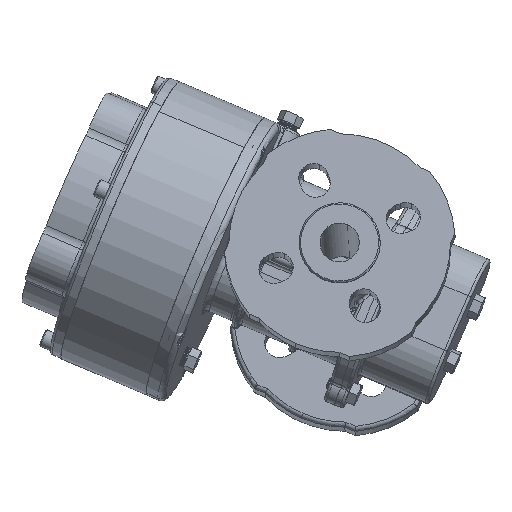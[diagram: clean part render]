
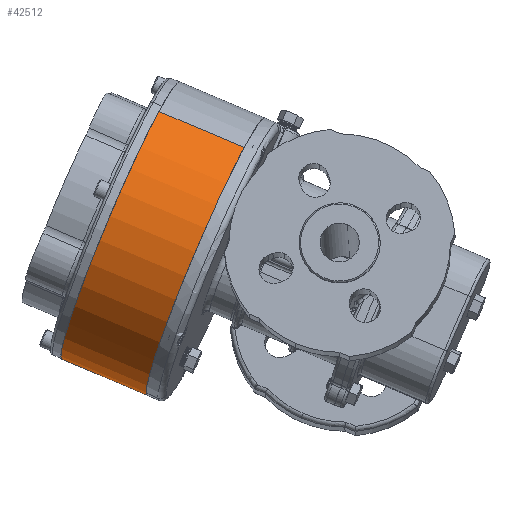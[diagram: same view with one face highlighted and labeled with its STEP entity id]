
A CAD part, left-side view. The second image highlights one B-rep face of the part: STEP entity #42512.
In plain terms, the highlighted cylindrical face has radius 79.756 mm (diameter 159.512 mm), a partial arc.
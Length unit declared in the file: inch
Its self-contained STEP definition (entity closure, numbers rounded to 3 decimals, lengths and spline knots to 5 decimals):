
#973 = ORIENTED_EDGE ( 'NONE', *, *, #12504, .F. ) ;
#1145 = CARTESIAN_POINT ( 'NONE',  ( 0., -0.9685, -3.14 ) ) ;
#1639 = DIRECTION ( 'NONE',  ( 0., 1., 0. ) ) ;
#2394 = CARTESIAN_POINT ( 'NONE',  ( 0., -0.9685, 3.14 ) ) ;
#2725 = CARTESIAN_POINT ( 'NONE',  ( 0., 0.9685, -3.14 ) ) ;
#3291 = EDGE_CURVE ( 'NONE', #24514, #7791, #22005, .T. ) ;
#4775 = CARTESIAN_POINT ( 'NONE',  ( 0., -0.9685, 3.14 ) ) ;
#5650 = DIRECTION ( 'NONE',  ( 0., 1., 0. ) ) ;
#7791 = VERTEX_POINT ( 'NONE', #1145 ) ;
#8607 = ORIENTED_EDGE ( 'NONE', *, *, #3291, .T. ) ;
#8658 = LINE ( 'NONE', #35178, #17185 ) ;
#8829 = EDGE_LOOP ( 'NONE', ( #8607, #29068, #973, #34219 ) ) ;
#11855 = DIRECTION ( 'NONE',  ( 0., 1., 0. ) ) ;
#12504 = EDGE_CURVE ( 'NONE', #36669, #23764, #35477, .T. ) ;
#13376 = DIRECTION ( 'NONE',  ( 0., 1., 0. ) ) ;
#14145 = FACE_OUTER_BOUND ( 'NONE', #8829, .T. ) ;
#15502 = EDGE_CURVE ( 'NONE', #24514, #36669, #21718, .T. ) ;
#15953 = DIRECTION ( 'NONE',  ( 0., 0., 1. ) ) ;
#16799 = DIRECTION ( 'NONE',  ( 0., 1., 0. ) ) ;
#17185 = VECTOR ( 'NONE', #1639, 39.37008 ) ;
#20587 = AXIS2_PLACEMENT_3D ( 'NONE', #42948, #5650, #15953 ) ;
#21718 = LINE ( 'NONE', #2394, #37144 ) ;
#22005 = CIRCLE ( 'NONE', #20587, 3.14 ) ;
#23764 = VERTEX_POINT ( 'NONE', #2725 ) ;
#24253 = CYLINDRICAL_SURFACE ( 'NONE', #31372, 3.14 ) ;
#24514 = VERTEX_POINT ( 'NONE', #4775 ) ;
#27323 = DIRECTION ( 'NONE',  ( 0., 0., 1. ) ) ;
#27525 = CARTESIAN_POINT ( 'NONE',  ( 0., -0.9685, 0. ) ) ;
#29068 = ORIENTED_EDGE ( 'NONE', *, *, #33527, .T. ) ;
#29163 = AXIS2_PLACEMENT_3D ( 'NONE', #36847, #13376, #41026 ) ;
#31372 = AXIS2_PLACEMENT_3D ( 'NONE', #27525, #16799, #27323 ) ;
#33527 = EDGE_CURVE ( 'NONE', #7791, #23764, #8658, .T. ) ;
#34219 = ORIENTED_EDGE ( 'NONE', *, *, #15502, .F. ) ;
#35178 = CARTESIAN_POINT ( 'NONE',  ( 0., -0.9685, -3.14 ) ) ;
#35477 = CIRCLE ( 'NONE', #29163, 3.14 ) ;
#36669 = VERTEX_POINT ( 'NONE', #42222 ) ;
#36847 = CARTESIAN_POINT ( 'NONE',  ( 0., 0.9685, 0. ) ) ;
#37144 = VECTOR ( 'NONE', #11855, 39.37008 ) ;
#41026 = DIRECTION ( 'NONE',  ( 0., 0., 1. ) ) ;
#42222 = CARTESIAN_POINT ( 'NONE',  ( 0., 0.9685, 3.14 ) ) ;
#42512 = ADVANCED_FACE ( 'NONE', ( #14145 ), #24253, .T. ) ;
#42948 = CARTESIAN_POINT ( 'NONE',  ( 0., -0.9685, 0. ) ) ;
